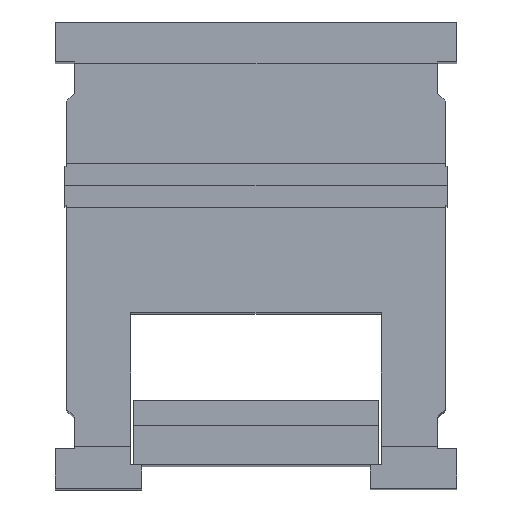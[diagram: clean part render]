
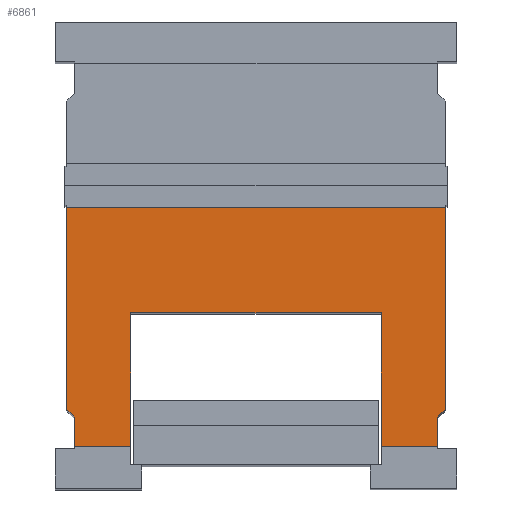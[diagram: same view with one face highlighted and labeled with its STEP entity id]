
A CAD part, top view. The second image highlights one B-rep face of the part: STEP entity #6861.
In plain terms, the highlighted planar face has unit normal (0, 0, 1).
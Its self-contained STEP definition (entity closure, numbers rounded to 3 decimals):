
#91 = CARTESIAN_POINT ( 'NONE',  ( 93., -133.5, 249. ) ) ;
#172 = CARTESIAN_POINT ( 'NONE',  ( -97., -114.5, 249. ) ) ;
#641 = LINE ( 'NONE', #642, #643 ) ;
#642 = CARTESIAN_POINT ( 'NONE',  ( -97., -11.3, 249. ) ) ;
#643 = VECTOR ( 'NONE', #644, 1000. ) ;
#644 = DIRECTION ( 'NONE',  ( 0., -1., 0. ) ) ;
#775 = CARTESIAN_POINT ( 'NONE',  ( -97., -11.3, 249. ) ) ;
#1027 = LINE ( 'NONE', #1028, #1029 ) ;
#1028 = CARTESIAN_POINT ( 'NONE',  ( -97., -114.5, 249. ) ) ;
#1029 = VECTOR ( 'NONE', #1030, 1000. ) ;
#1030 = DIRECTION ( 'NONE',  ( 0.707, -0.707, 0. ) ) ;
#1293 = CARTESIAN_POINT ( 'NONE',  ( 97., -11.3, 249. ) ) ;
#1387 = CARTESIAN_POINT ( 'NONE',  ( -64.25, -65., 249. ) ) ;
#1676 = LINE ( 'NONE', #1677, #1678 ) ;
#1677 = CARTESIAN_POINT ( 'NONE',  ( 97., -114.5, 249. ) ) ;
#1678 = VECTOR ( 'NONE', #1679, 1000. ) ;
#1679 = DIRECTION ( 'NONE',  ( 0., 1., 0. ) ) ;
#1874 = LINE ( 'NONE', #1875, #1876 ) ;
#1875 = CARTESIAN_POINT ( 'NONE',  ( -64.25, -133.5, 249. ) ) ;
#1876 = VECTOR ( 'NONE', #1877, 1000. ) ;
#1877 = DIRECTION ( 'NONE',  ( 0., 1., 0. ) ) ;
#1956 = LINE ( 'NONE', #1957, #1958 ) ;
#1957 = CARTESIAN_POINT ( 'NONE',  ( -93., -133.5, 249. ) ) ;
#1958 = VECTOR ( 'NONE', #1959, 1000. ) ;
#1959 = DIRECTION ( 'NONE',  ( 1., 0., 0. ) ) ;
#1993 = CARTESIAN_POINT ( 'NONE',  ( -64.25, -133.5, 249. ) ) ;
#3498 = CARTESIAN_POINT ( 'NONE',  ( 64.25, -133.5, 249. ) ) ;
#4394 = ORIENTED_EDGE ( 'NONE', *, *, #5203, .T. ) ;
#4453 = VERTEX_POINT ( 'NONE', #172 ) ;
#4454 = ORIENTED_EDGE ( 'NONE', *, *, #6621, .T. ) ;
#4540 = ORIENTED_EDGE ( 'NONE', *, *, #6461, .T. ) ;
#4573 = EDGE_CURVE ( 'NONE', #4622, #4453, #641, .T. ) ;
#4622 = VERTEX_POINT ( 'NONE', #775 ) ;
#4645 = ORIENTED_EDGE ( 'NONE', *, *, #6536, .T. ) ;
#4717 = EDGE_CURVE ( 'NONE', #4453, #6651, #1027, .T. ) ;
#4759 = ORIENTED_EDGE ( 'NONE', *, *, #8886, .T. ) ;
#4842 = VERTEX_POINT ( 'NONE', #1293 ) ;
#4893 = VERTEX_POINT ( 'NONE', #1387 ) ;
#4903 = ORIENTED_EDGE ( 'NONE', *, *, #7154, .T. ) ;
#5089 = EDGE_CURVE ( 'NONE', #6776, #4842, #1676, .T. ) ;
#5203 = EDGE_CURVE ( 'NONE', #5287, #4893, #1874, .T. ) ;
#5264 = EDGE_CURVE ( 'NONE', #7019, #5287, #1956, .T. ) ;
#5287 = VERTEX_POINT ( 'NONE', #1993 ) ;
#6123 = VERTEX_POINT ( 'NONE', #3498 ) ;
#6288 = VERTEX_POINT ( 'NONE', #7637 ) ;
#6461 = EDGE_CURVE ( 'NONE', #6288, #6123, #8042, .T. ) ;
#6536 = EDGE_CURVE ( 'NONE', #6123, #9141, #8252, .T. ) ;
#6621 = EDGE_CURVE ( 'NONE', #4893, #6288, #8427, .T. ) ;
#6651 = VERTEX_POINT ( 'NONE', #8495 ) ;
#6776 = VERTEX_POINT ( 'NONE', #8730 ) ;
#6825 = EDGE_CURVE ( 'NONE', #4842, #4622, #8843, .T. ) ;
#6861 = ADVANCED_FACE ( 'NONE', ( #8892 ), #8893, .F. ) ;
#6980 = EDGE_LOOP ( 'NONE', ( #7377, #7966, #8502, #9006, #9497, #9987, #4394, #4454, #4540, #4645, #4759, #4903 ) ) ;
#7019 = VERTEX_POINT ( 'NONE', #9260 ) ;
#7154 = EDGE_CURVE ( 'NONE', #8050, #6776, #9429, .T. ) ;
#7377 = ORIENTED_EDGE ( 'NONE', *, *, #5089, .T. ) ;
#7637 = CARTESIAN_POINT ( 'NONE',  ( 64.25, -65., 249. ) ) ;
#7863 = EDGE_CURVE ( 'NONE', #6651, #7019, #9956, .T. ) ;
#7966 = ORIENTED_EDGE ( 'NONE', *, *, #6825, .T. ) ;
#8042 = LINE ( 'NONE', #8043, #8044 ) ;
#8043 = CARTESIAN_POINT ( 'NONE',  ( 64.25, -65., 249. ) ) ;
#8044 = VECTOR ( 'NONE', #8045, 1000. ) ;
#8045 = DIRECTION ( 'NONE',  ( 0., -1., 0. ) ) ;
#8050 = VERTEX_POINT ( 'NONE', #10102 ) ;
#8252 = LINE ( 'NONE', #8253, #8254 ) ;
#8253 = CARTESIAN_POINT ( 'NONE',  ( 64.25, -133.5, 249. ) ) ;
#8254 = VECTOR ( 'NONE', #8255, 1000. ) ;
#8255 = DIRECTION ( 'NONE',  ( 1., 0., 0. ) ) ;
#8427 = LINE ( 'NONE', #8428, #8429 ) ;
#8428 = CARTESIAN_POINT ( 'NONE',  ( -64.25, -65., 249. ) ) ;
#8429 = VECTOR ( 'NONE', #8430, 1000. ) ;
#8430 = DIRECTION ( 'NONE',  ( 1., 0., 0. ) ) ;
#8495 = CARTESIAN_POINT ( 'NONE',  ( -93., -118.5, 249. ) ) ;
#8502 = ORIENTED_EDGE ( 'NONE', *, *, #4573, .T. ) ;
#8730 = CARTESIAN_POINT ( 'NONE',  ( 97., -114.5, 249. ) ) ;
#8843 = LINE ( 'NONE', #8844, #8845 ) ;
#8844 = CARTESIAN_POINT ( 'NONE',  ( 97., -11.3, 249. ) ) ;
#8845 = VECTOR ( 'NONE', #8846, 1000. ) ;
#8846 = DIRECTION ( 'NONE',  ( -1., 0., 0. ) ) ;
#8886 = EDGE_CURVE ( 'NONE', #9141, #8050, #10559, .T. ) ;
#8892 = FACE_OUTER_BOUND ( 'NONE', #6980, .T. ) ;
#8893 = PLANE ( 'NONE',  #8894 ) ;
#8894 = AXIS2_PLACEMENT_3D ( 'NONE', #8895, #8896, #8897 ) ;
#8895 = CARTESIAN_POINT ( 'NONE',  ( 97., -65., 249. ) ) ;
#8896 = DIRECTION ( 'NONE',  ( 0., 0., -1. ) ) ;
#8897 = DIRECTION ( 'NONE',  ( -1., 0., 0. ) ) ;
#9006 = ORIENTED_EDGE ( 'NONE', *, *, #4717, .T. ) ;
#9141 = VERTEX_POINT ( 'NONE', #91 ) ;
#9260 = CARTESIAN_POINT ( 'NONE',  ( -93., -133.5, 249. ) ) ;
#9429 = LINE ( 'NONE', #9430, #9431 ) ;
#9430 = CARTESIAN_POINT ( 'NONE',  ( 93., -118.5, 249. ) ) ;
#9431 = VECTOR ( 'NONE', #9432, 1000. ) ;
#9432 = DIRECTION ( 'NONE',  ( 0.707, 0.707, 0. ) ) ;
#9497 = ORIENTED_EDGE ( 'NONE', *, *, #7863, .T. ) ;
#9956 = LINE ( 'NONE', #9957, #9958 ) ;
#9957 = CARTESIAN_POINT ( 'NONE',  ( -93., -118.5, 249. ) ) ;
#9958 = VECTOR ( 'NONE', #9959, 1000. ) ;
#9959 = DIRECTION ( 'NONE',  ( 0., -1., 0. ) ) ;
#9987 = ORIENTED_EDGE ( 'NONE', *, *, #5264, .T. ) ;
#10102 = CARTESIAN_POINT ( 'NONE',  ( 93., -118.5, 249. ) ) ;
#10559 = LINE ( 'NONE', #10560, #10561 ) ;
#10560 = CARTESIAN_POINT ( 'NONE',  ( 93., -133.5, 249. ) ) ;
#10561 = VECTOR ( 'NONE', #10562, 1000. ) ;
#10562 = DIRECTION ( 'NONE',  ( 0., 1., 0. ) ) ;
